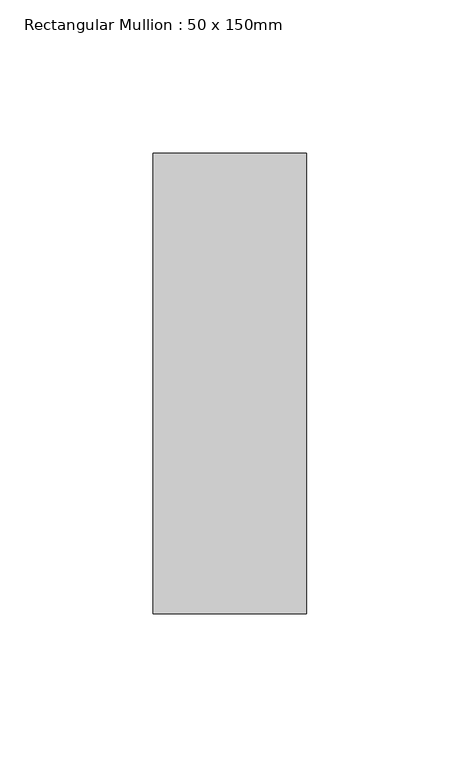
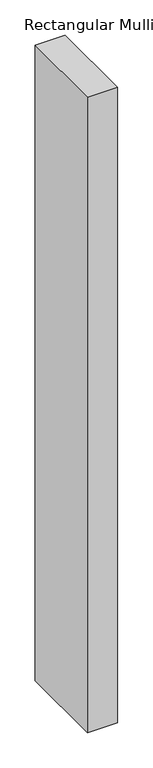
"""IFC4 building model written with IfcOpenShell, lengths in millimetres: member geometry, Rectangular Mullion : 50 x 150mm."""

from ifc_helpers import new_model, si_unit, frame, origin, place, context, project, spatial, polyline, outline, extrude, source, transform, mapped, element, save


def rectangular_mullion_50_x_150mm_917d0fed(model_context):
    return source(origin(), model_context, "Body", "SweptSolid", [
        extrude(outline(polyline([(25.0, 75.0), (25.0, -75.0), (-25.0, -75.0), (-25.0, 75.0), (25.0, 75.0)])), frame((0.0, 0.0, -1107.1428571), z_axis=(0.0, 0.0, 1.0), x_axis=(1.0, 0.0, 0.0)), (0.0, 0.0, 1.0), 1107.1428571),
    ])


if __name__ == "__main__":
    model = new_model("IFC4")
    model_context = context("Model", 3, world=origin())
    ifc_project = project(units=[si_unit("LENGTHUNIT", "METRE", prefix="MILLI")], contexts=[model_context])
    site = spatial("IfcSite", under=ifc_project)
    building = spatial("IfcBuilding", under=site)
    placement = place(None, origin())
    rectangular_mullion_50_x_150mm_shape = rectangular_mullion_50_x_150mm_917d0fed(model_context)
    element("IfcMember", 1, ObjectType="Rectangular Mullion : 50 x 150mm", at=placement, inside=building, context=model_context, shape_type="MappedRepresentation", body=[
        mapped(rectangular_mullion_50_x_150mm_shape, transform((0.0, 0.0, 0.0), x_axis=(1.0, 0.0, 0.0), y_axis=(0.0, 1.0, 0.0), z_axis=(0.0, 0.0, 1.0))),
    ])
    save(model, "model.ifc")
